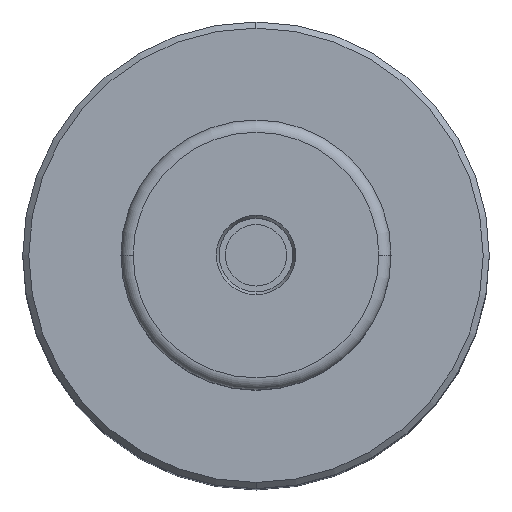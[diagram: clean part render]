
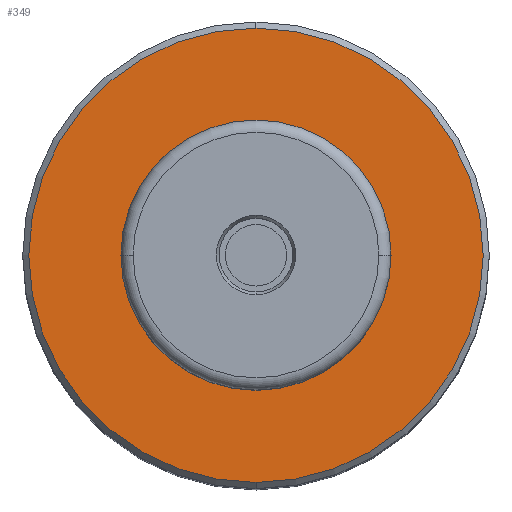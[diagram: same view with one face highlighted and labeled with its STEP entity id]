
A CAD part, top view. The second image highlights one B-rep face of the part: STEP entity #349.
In plain terms, the highlighted planar face has unit normal (0, 0, 1).
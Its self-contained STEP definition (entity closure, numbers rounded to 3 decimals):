
#252 = VERTEX_POINT('',#253);
#253 = CARTESIAN_POINT('',(0.,18.5,64.));
#259 = EDGE_CURVE('',#260,#252,#262,.T.);
#260 = VERTEX_POINT('',#261);
#261 = CARTESIAN_POINT('',(0.,-18.5,64.));
#262 = CIRCLE('',#263,18.5);
#263 = AXIS2_PLACEMENT_3D('',#264,#265,#266);
#264 = CARTESIAN_POINT('',(0.,0.,64.));
#265 = DIRECTION('',(0.,0.,1.));
#266 = DIRECTION('',(0.,1.,0.));
#286 = EDGE_CURVE('',#252,#260,#287,.T.);
#287 = CIRCLE('',#288,18.5);
#288 = AXIS2_PLACEMENT_3D('',#289,#290,#291);
#289 = CARTESIAN_POINT('',(0.,0.,64.));
#290 = DIRECTION('',(0.,0.,1.));
#291 = DIRECTION('',(0.,1.,0.));
#349 = ADVANCED_FACE('',(#350,#370),#374,.T.);
#350 = FACE_BOUND('',#351,.T.);
#351 = EDGE_LOOP('',(#352,#363));
#352 = ORIENTED_EDGE('',*,*,#353,.F.);
#353 = EDGE_CURVE('',#354,#356,#358,.T.);
#354 = VERTEX_POINT('',#355);
#355 = CARTESIAN_POINT('',(0.,11.,64.));
#356 = VERTEX_POINT('',#357);
#357 = CARTESIAN_POINT('',(0.,-11.,64.));
#358 = CIRCLE('',#359,11.);
#359 = AXIS2_PLACEMENT_3D('',#360,#361,#362);
#360 = CARTESIAN_POINT('',(0.,0.,64.));
#361 = DIRECTION('',(0.,0.,1.));
#362 = DIRECTION('',(0.,1.,0.));
#363 = ORIENTED_EDGE('',*,*,#364,.F.);
#364 = EDGE_CURVE('',#356,#354,#365,.T.);
#365 = CIRCLE('',#366,11.);
#366 = AXIS2_PLACEMENT_3D('',#367,#368,#369);
#367 = CARTESIAN_POINT('',(0.,0.,64.));
#368 = DIRECTION('',(0.,0.,1.));
#369 = DIRECTION('',(0.,1.,0.));
#370 = FACE_BOUND('',#371,.T.);
#371 = EDGE_LOOP('',(#372,#373));
#372 = ORIENTED_EDGE('',*,*,#286,.T.);
#373 = ORIENTED_EDGE('',*,*,#259,.T.);
#374 = PLANE('',#375);
#375 = AXIS2_PLACEMENT_3D('',#376,#377,#378);
#376 = CARTESIAN_POINT('',(0.,14.75,64.));
#377 = DIRECTION('',(0.,0.,1.));
#378 = DIRECTION('',(0.,1.,0.));
